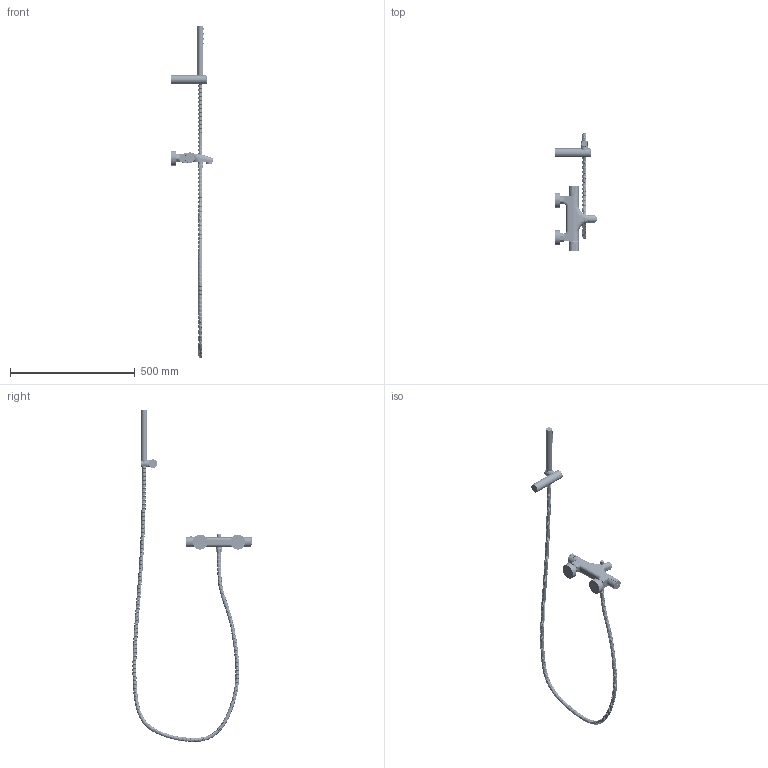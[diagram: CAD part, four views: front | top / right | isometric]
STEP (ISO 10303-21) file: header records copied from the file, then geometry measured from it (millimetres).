
FILE_DESCRIPTION(('STEP AP242'), '1');
FILE_NAME('92CR105THKM', '', ('UNSPECIFIED'), ('UNSPECIFIED'), 'ASCON STEP Converter 1.6', 'ASCON Math Kernel', '');
FILE_SCHEMA(('AP242_MANAGED_MODEL_BASED_3D_ENGINEERING_MIM_LF { 1 0 10303 442 1 1 4 }'));
Length unit declared in the file: millimetre
Assembly tree (3 placements, depth 2):
  (unnamed)
    (unnamed)
    (unnamed)
    (unnamed)
Bounding box: 170 x 477.24 x 1329.47 mm (x, y, z)
Volume: 1125420.1 mm3; surface area: 411957.7 mm2
Topology: 460 solids, 460 shells, 2299 faces, 4774 edges, 2594 vertices
Faces by surface type: cylinder 1109, torus 842, plane 200, cone 111, bspline 29, sphere 8
Full cylindrical faces by diameter (mm): 6 x1, 15 x400, 16 x399, 20 x2, 24 x2, 30 x2, 35 x2, 36 x1, 40 x4, 60 x2
Entity records: 90491 total; most frequent: CARTESIAN_POINT 25308, DIRECTION 9499, ORIENTED_EDGE 6010, AXIS2_PLACEMENT_3D 4532, EDGE_LOOP 4171, FACE_OUTER_BOUND 3484, EDGE_CURVE 3005, COLOUR_RGB 2759
